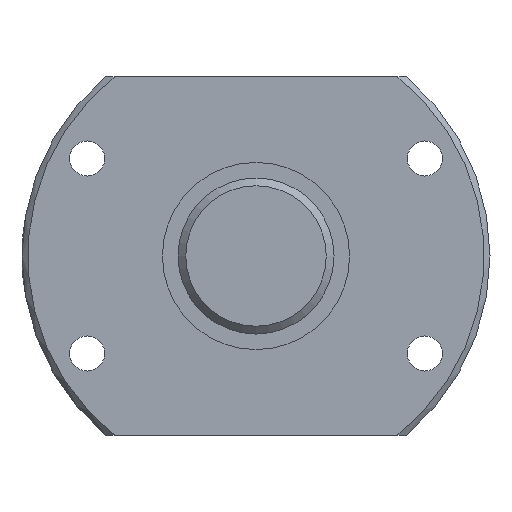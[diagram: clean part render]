
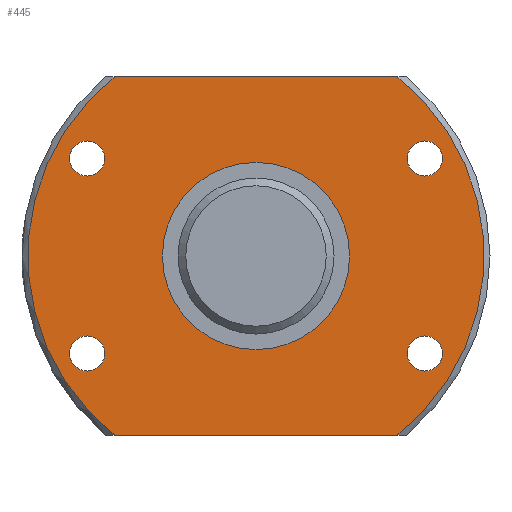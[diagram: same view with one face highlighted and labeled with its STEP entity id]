
A CAD part, left-side view. The second image highlights one B-rep face of the part: STEP entity #445.
In plain terms, the highlighted planar face has unit normal (-1, 0, 0).
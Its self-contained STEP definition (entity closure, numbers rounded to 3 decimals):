
#32=LINE('',#786,#40);
#33=LINE('',#790,#41);
#40=VECTOR('',#613,1000.);
#41=VECTOR('',#616,1000.);
#66=PLANE('',#515);
#102=ORIENTED_EDGE('',*,*,#196,.T.);
#103=ORIENTED_EDGE('',*,*,#197,.F.);
#104=ORIENTED_EDGE('',*,*,#198,.F.);
#105=ORIENTED_EDGE('',*,*,#199,.F.);
#106=ORIENTED_EDGE('',*,*,#186,.F.);
#107=ORIENTED_EDGE('',*,*,#200,.T.);
#108=ORIENTED_EDGE('',*,*,#201,.T.);
#109=ORIENTED_EDGE('',*,*,#202,.T.);
#110=ORIENTED_EDGE('',*,*,#203,.T.);
#186=EDGE_CURVE('',#234,#235,#273,.T.);
#196=EDGE_CURVE('',#244,#244,#278,.T.);
#197=EDGE_CURVE('',#245,#234,#32,.T.);
#198=EDGE_CURVE('',#246,#245,#279,.T.);
#199=EDGE_CURVE('',#235,#246,#33,.T.);
#200=EDGE_CURVE('',#247,#247,#280,.T.);
#201=EDGE_CURVE('',#248,#248,#281,.T.);
#202=EDGE_CURVE('',#249,#249,#282,.T.);
#203=EDGE_CURVE('',#250,#250,#283,.T.);
#234=VERTEX_POINT('',#738);
#235=VERTEX_POINT('',#740);
#244=VERTEX_POINT('',#785);
#245=VERTEX_POINT('',#787);
#246=VERTEX_POINT('',#789);
#247=VERTEX_POINT('',#792);
#248=VERTEX_POINT('',#794);
#249=VERTEX_POINT('',#796);
#250=VERTEX_POINT('',#798);
#273=CIRCLE('',#508,29.25);
#278=CIRCLE('',#516,12.);
#279=CIRCLE('',#517,29.25);
#280=CIRCLE('',#518,2.25);
#281=CIRCLE('',#519,2.25);
#282=CIRCLE('',#520,2.25);
#283=CIRCLE('',#521,2.25);
#314=EDGE_LOOP('',(#102));
#315=EDGE_LOOP('',(#103,#104,#105,#106));
#316=EDGE_LOOP('',(#107));
#317=EDGE_LOOP('',(#108));
#318=EDGE_LOOP('',(#109));
#319=EDGE_LOOP('',(#110));
#376=FACE_BOUND('',#314,.T.);
#377=FACE_BOUND('',#315,.T.);
#378=FACE_BOUND('',#316,.T.);
#379=FACE_BOUND('',#317,.T.);
#380=FACE_BOUND('',#318,.T.);
#381=FACE_BOUND('',#319,.T.);
#445=ADVANCED_FACE('',(#376,#377,#378,#379,#380,#381),#66,.T.);
#508=AXIS2_PLACEMENT_3D('',#739,#593,#594);
#515=AXIS2_PLACEMENT_3D('',#783,#609,#610);
#516=AXIS2_PLACEMENT_3D('',#784,#611,#612);
#517=AXIS2_PLACEMENT_3D('',#788,#614,#615);
#518=AXIS2_PLACEMENT_3D('',#791,#617,#618);
#519=AXIS2_PLACEMENT_3D('',#793,#619,#620);
#520=AXIS2_PLACEMENT_3D('',#795,#621,#622);
#521=AXIS2_PLACEMENT_3D('',#797,#623,#624);
#593=DIRECTION('',(1.,0.,0.));
#594=DIRECTION('',(0.,0.,-1.));
#609=DIRECTION('',(-1.,0.,0.));
#610=DIRECTION('',(0.,0.,1.));
#611=DIRECTION('',(1.,0.,0.));
#612=DIRECTION('',(0.,0.,-1.));
#613=DIRECTION('',(0.,-1.,0.));
#614=DIRECTION('',(1.,0.,0.));
#615=DIRECTION('',(0.,0.,-1.));
#616=DIRECTION('',(0.,1.,0.));
#617=DIRECTION('',(1.,0.,0.));
#618=DIRECTION('',(0.,0.,-1.));
#619=DIRECTION('',(1.,0.,0.));
#620=DIRECTION('',(0.,0.,-1.));
#621=DIRECTION('',(1.,0.,0.));
#622=DIRECTION('',(0.,0.,-1.));
#623=DIRECTION('',(1.,0.,0.));
#624=DIRECTION('',(0.,0.,-1.));
#738=CARTESIAN_POINT('',(0.,-18.071,23.));
#739=CARTESIAN_POINT('',(0.,0.,0.));
#740=CARTESIAN_POINT('',(0.,-18.071,-23.));
#783=CARTESIAN_POINT('',(0.,29.25,0.));
#784=CARTESIAN_POINT('',(0.,0.,0.));
#785=CARTESIAN_POINT('',(0.,0.,-12.));
#786=CARTESIAN_POINT('',(0.,30.1,23.));
#787=CARTESIAN_POINT('',(0.,18.071,23.));
#788=CARTESIAN_POINT('',(0.,0.,0.));
#789=CARTESIAN_POINT('',(0.,18.071,-23.));
#790=CARTESIAN_POINT('',(0.,-30.1,-23.));
#791=CARTESIAN_POINT('',(0.,-21.651,12.5));
#792=CARTESIAN_POINT('',(0.,-21.651,10.25));
#793=CARTESIAN_POINT('',(0.,-21.651,-12.5));
#794=CARTESIAN_POINT('',(0.,-21.651,-14.75));
#795=CARTESIAN_POINT('',(0.,21.651,-12.5));
#796=CARTESIAN_POINT('',(0.,21.651,-14.75));
#797=CARTESIAN_POINT('',(0.,21.651,12.5));
#798=CARTESIAN_POINT('',(0.,21.651,10.25));
